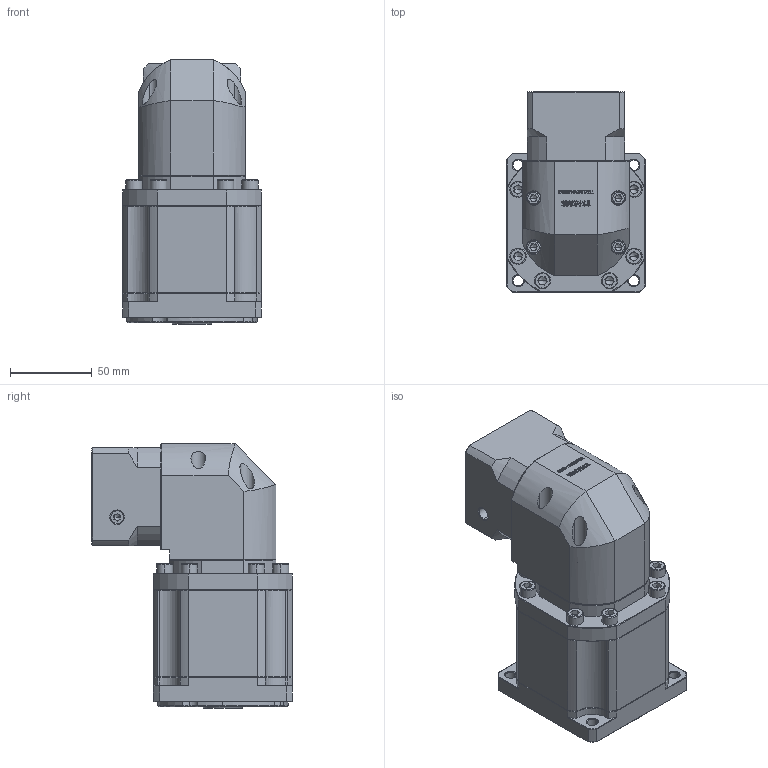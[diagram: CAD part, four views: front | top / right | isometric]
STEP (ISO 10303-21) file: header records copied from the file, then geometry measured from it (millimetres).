
FILE_DESCRIPTION (( 'STEP AP214' ), '1' );
FILE_NAME ('ZBR90-K15-L3-6.35-38.1-47.14x47.14-M4.step', '2022-05-07T15:26:54', ( '' ), ( 'Microsoft' ), 'SwSTEP 2.0', 'SolidWorks 2016', '' );
FILE_SCHEMA (( 'AUTOMOTIVE_DESIGN' ));
Length unit declared in the file: millimetre
Products named in the file (1): ZBR90-K15-L3-6.35-38.1-47.14x47.14-M4
Bounding box: 85 x 122.7 x 162 mm (x, y, z)
Volume: 908912.9 mm3; surface area: 105225 mm2
Topology: 5 solids, 5 shells, 2986 faces, 7998 edges, 5156 vertices
Faces by surface type: plane 1592, bspline 610, cylinder 412, cone 364, torus 8
Entity records: 155225 total; most frequent: CARTESIAN_POINT 52233, ORIENTED_EDGE 15908, DIRECTION 12265, EDGE_CURVE 7954, LINE 5289, VECTOR 5289, VERTEX_POINT 5156, AXIS2_PLACEMENT_3D 3488
